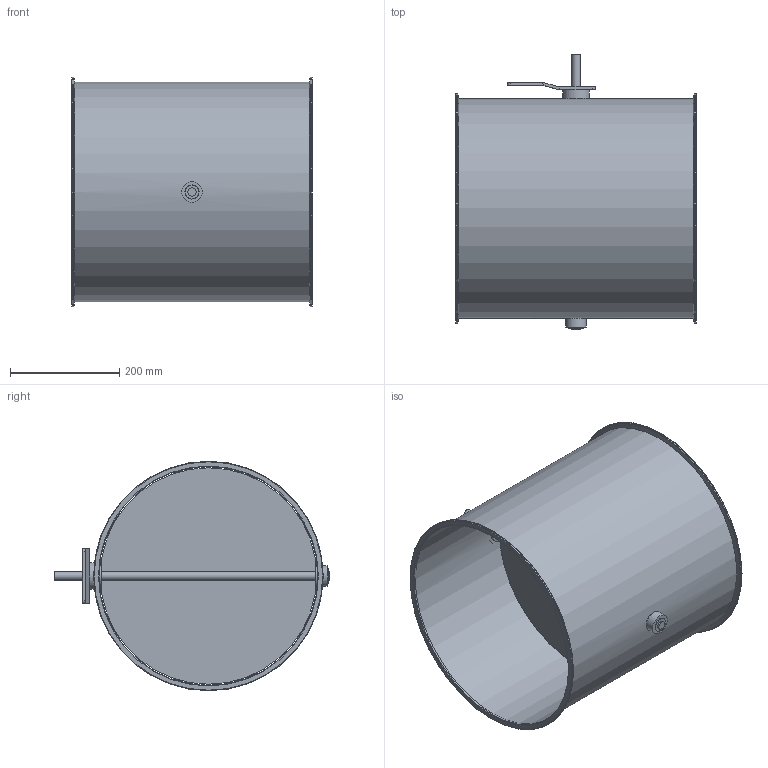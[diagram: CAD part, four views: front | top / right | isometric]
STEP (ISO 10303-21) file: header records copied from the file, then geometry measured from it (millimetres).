
FILE_DESCRIPTION(/* description */ (''),/* implementation_level */ '2;1');
FILE_NAME(/* name */ 'EA108-80B__400_L440_Belimo_Typ_SM.stp',/* time_stamp */ '2017-12-06T15:36:04+01:00',/* author */ (''),/* organization */ (''),/* preprocessor_version */ 'ST-DEVELOPER v11',/* originating_system */ 'SIEMENS UGS NX 6.0',/* authorisation */ '');
FILE_SCHEMA (('CONFIG_CONTROL_DESIGN'));
Length unit declared in the file: millimetre
Products named in the file (1): gars18E2j2g8
Bounding box: 440 x 504 x 420 mm (x, y, z)
Volume: 1002287.5 mm3; surface area: 1476651.4 mm2
Topology: 8 solids, 8 shells, 78 faces, 164 edges, 104 vertices
Faces by surface type: plane 36, cylinder 34, torus 6, cone 2
Full cylindrical faces by diameter (mm): 6.1 x6, 15 x3, 25 x3, 25.85 x2, 26 x2, 38 x3, 49 x1, 400 x1, 402 x1, 420 x2
Entity records: 2028 total; most frequent: CARTESIAN_POINT 363, DIRECTION 346, ORIENTED_EDGE 244, AXIS2_PLACEMENT_3D 149, EDGE_LOOP 140, EDGE_CURVE 122, FACE_BOUND 110, VERTEX_POINT 94
